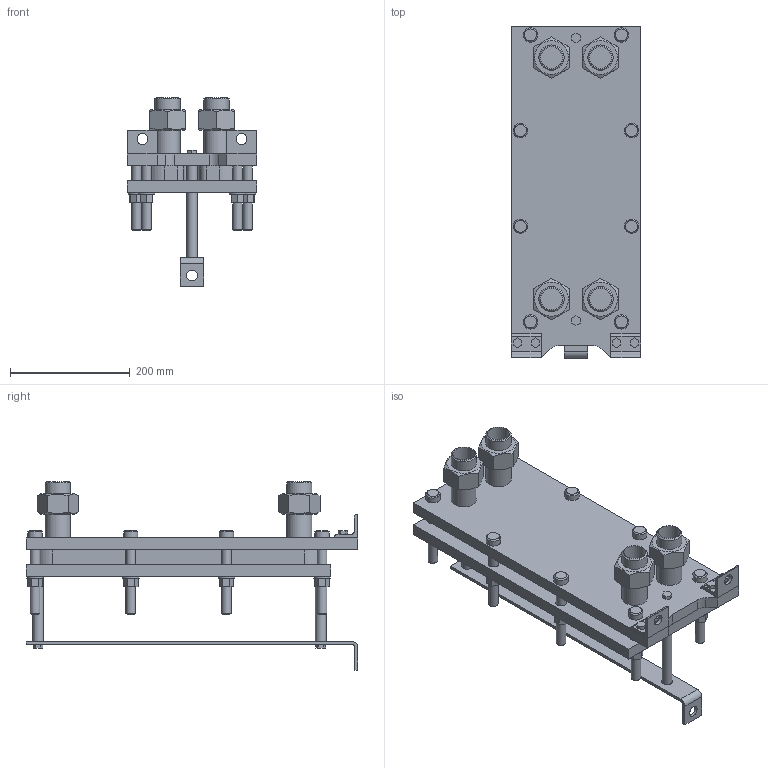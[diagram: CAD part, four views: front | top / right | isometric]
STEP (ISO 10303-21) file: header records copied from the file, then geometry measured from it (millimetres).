
FILE_DESCRIPTION(/* description */ (''),/* implementation_level */ '2;1');
FILE_NAME(/* name */ 'C:\Users\zhuro\Desktop\ENCO\TO\ЭН-004\ЭН-0,5-004-8-1.stp',/* time_stamp */ '2022-06-06T10:44:39+03:00',/* author */ ('zhuro'),/* organization */ (''),/* preprocessor_version */ 'ST-DEVELOPER v18.1',/* originating_system */ 'Autodesk Inventor 2022',/* authorisation */ '');
FILE_SCHEMA (('AUTOMOTIVE_DESIGN { 1 0 10303 214 3 1 1 }'));
Length unit declared in the file: millimetre
Products named in the file (1): ЭН-0,5-004-8-1
Bounding box: 216 x 555 x 315.4 mm (x, y, z)
Volume: 7291456.1 mm3; surface area: 1012896.3 mm2
Topology: 40 solids, 40 shells, 403 faces, 865 edges, 574 vertices
Faces by surface type: plane 272, cylinder 103, cone 28
Full cylindrical faces by diameter (mm): 10 x4, 16 x16, 18 x29, 20 x2, 24 x8, 28 x8, 36.3 x5, 42.3 x9
Entity records: 11137 total; most frequent: CARTESIAN_POINT 1939, DIRECTION 1879, ORIENTED_EDGE 1730, EDGE_CURVE 865, AXIS2_PLACEMENT_3D 658, VERTEX_POINT 574, LINE 563, VECTOR 563
